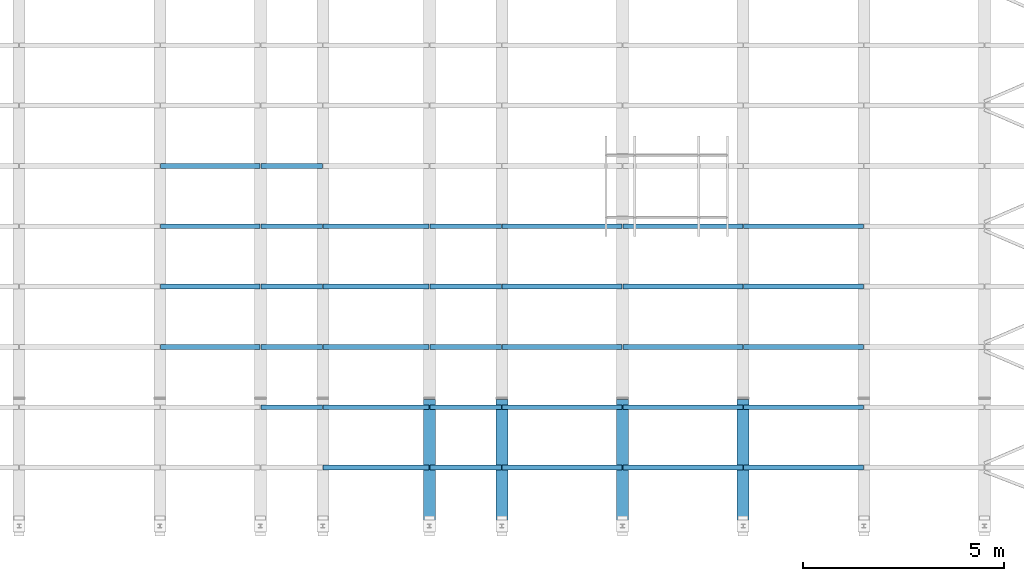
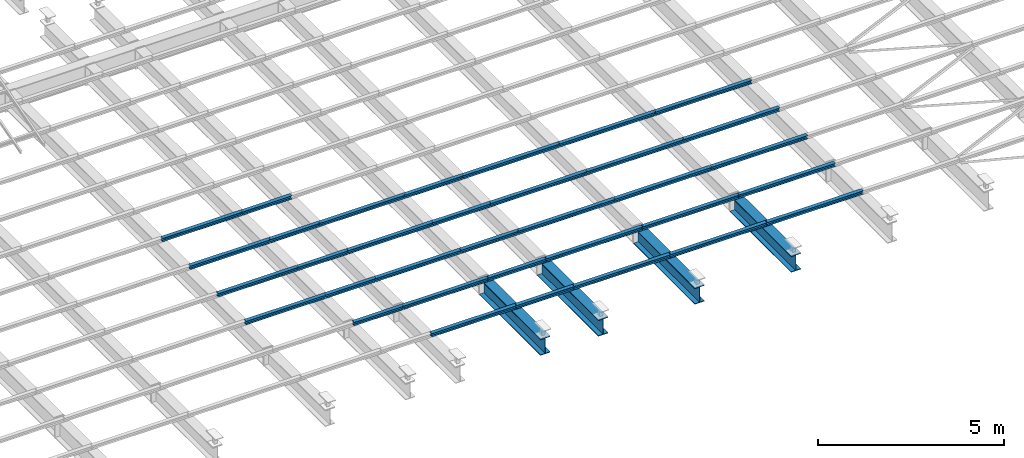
# One storey, part 38 of 139: 38 beams.
"""IFC2X3 building model written with IfcOpenShell, lengths in metres."""

from ifc_helpers import new_model, entity, si_unit, converted_unit, derived_unit, frame, origin, place, context, subcontext, project, spatial, polyline, outline, extrude, material, element, save


model = new_model("IFC2X3")

# Units and contexts
model_context = context("Model", 3, precision=1e-05, world=origin())
body_context = subcontext(model_context, "Body", "Model", "MODEL_VIEW")
ifc_project = project(units=[si_unit("LENGTHUNIT", "METRE"), si_unit("AREAUNIT", "SQUARE_METRE"), si_unit("VOLUMEUNIT", "CUBIC_METRE"), si_unit("MASSUNIT", "GRAM", prefix="KILO"), converted_unit("PLANEANGLEUNIT", "DEGREE", entity("IfcPlaneAngleMeasure", 0.0174532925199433), si_unit("PLANEANGLEUNIT", "RADIAN"), dimensions=[0, 0, 0, 0, 0, 0, 0]), derived_unit("THERMALTRANSMITTANCEUNIT", [(si_unit("POWERUNIT", "WATT"), 1), (si_unit("THERMODYNAMICTEMPERATUREUNIT", "KELVIN"), -1), (si_unit("LENGTHUNIT", "METRE"), -2)]), derived_unit("VOLUMETRICFLOWRATEUNIT", [(si_unit("LENGTHUNIT", "METRE"), 3), (converted_unit("TIMEUNIT", "hour", entity("IfcTimeMeasure", 3600.0), si_unit("TIMEUNIT", "SECOND"), dimensions=[0, 0, 1, 0, 0, 0, 0]), -1), (si_unit("LENGTHUNIT", "METRE"), -1)])], contexts=[model_context])

# Site, building, storey
site_placement = place(None, origin())
site = spatial("IfcSite", under=ifc_project, at=site_placement, Name="TWP_Speiseverteilzentrum SBW VZ II", CompositionType="ELEMENT")
building_placement = place(site_placement, origin())
building = spatial("IfcBuilding", under=site, at=building_placement, Name="Speiseverteilzentrum SBW VZ II", CompositionType="ELEMENT")
storey_placement = place(building_placement, frame((0.0, 0.0, 7.1307)))
storey = spatial("IfcBuildingStorey", under=building, at=storey_placement, Name="Wartung_FFB", CompositionType="ELEMENT", Elevation=7.1307)

# Beams
ifc_material_1 = material(Name="S235")
beam_1_placement = place(storey_placement, frame((34.0500000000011, 13.8380742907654, -0.46), z_axis=(0.0, 0.0, 1.0), x_axis=(-1.0, 0.0, 0.0)))
element("IfcBeam", 1, at=beam_1_placement, inside=storey, material=ifc_material_1, Name="Stahlträger", context=body_context, shape_type="SweptSolid", body=[
    extrude(outline(polyline([(-0.15, 0.27), (-0.15, 0.246), (-0.0062499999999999, 0.246), (-0.00624999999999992, -0.246), (-0.15, -0.246), (-0.15, -0.27), (0.15, -0.27), (0.15, -0.246), (0.00625000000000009, -0.246), (0.00625000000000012, 0.246), (0.15, 0.246), (0.15, 0.27), (-0.15, 0.27)])), frame((0.0, 0.0, 0.0), z_axis=(0.0, 1.0, 0.0), x_axis=(-1.0, 0.0, 0.0)), (0.0, 0.0, 1.0), 3.29792570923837),
])
ifc_material_2 = material(Name="S235")
beam_2_placement = place(storey_placement, frame((32.2500000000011, 13.8380742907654, -0.46), z_axis=(0.0, 0.0, 1.0), x_axis=(-1.0, 0.0, 0.0)))
element("IfcBeam", 2, at=beam_2_placement, inside=storey, material=ifc_material_2, Name="Stahlträger", context=body_context, shape_type="SweptSolid", body=[
    extrude(outline(polyline([(-0.15, 0.27), (-0.15, 0.246), (-0.0062499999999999, 0.246), (-0.00624999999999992, -0.246), (-0.15, -0.246), (-0.15, -0.27), (0.15, -0.27), (0.15, -0.246), (0.00625000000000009, -0.246), (0.00625000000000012, 0.246), (0.15, 0.246), (0.15, 0.27), (-0.15, 0.27)])), frame((0.0, 0.0, 0.0), z_axis=(0.0, 1.0, 0.0), x_axis=(-1.0, 0.0, 0.0)), (0.0, 0.0, 1.0), 3.29792570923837),
])
ifc_material_3 = material(Name="S235")
beam_3_placement = place(storey_placement, frame((37.0500000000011, 13.8380742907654, -0.46), z_axis=(0.0, 0.0, 1.0), x_axis=(-1.0, 0.0, 0.0)))
element("IfcBeam", 3, at=beam_3_placement, inside=storey, material=ifc_material_3, Name="Stahlträger", context=body_context, shape_type="SweptSolid", body=[
    extrude(outline(polyline([(-0.15, 0.27), (-0.15, 0.246), (-0.0062499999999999, 0.246), (-0.00624999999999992, -0.246), (-0.15, -0.246), (-0.15, -0.27), (0.15, -0.27), (0.15, -0.246), (0.00625000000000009, -0.246), (0.00625000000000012, 0.246), (0.15, 0.246), (0.15, 0.27), (-0.15, 0.27)])), frame((0.0, 0.0, 0.0), z_axis=(0.0, 1.0, 0.0), x_axis=(-1.0, 0.0, 0.0)), (0.0, 0.0, 1.0), 3.29792570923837),
])
ifc_material_4 = material(Name="S235")
beam_4_placement = place(storey_placement, frame((40.0500000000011, 13.8380742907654, -0.46), z_axis=(0.0, 0.0, 1.0), x_axis=(-1.0, 0.0, 0.0)))
element("IfcBeam", 4, at=beam_4_placement, inside=storey, material=ifc_material_4, Name="Stahlträger", context=body_context, shape_type="SweptSolid", body=[
    extrude(outline(polyline([(-0.15, 0.27), (-0.15, 0.246), (-0.0062499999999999, 0.246), (-0.00624999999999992, -0.246), (-0.15, -0.246), (-0.15, -0.27), (0.15, -0.27), (0.15, -0.246), (0.00625000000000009, -0.246), (0.00625000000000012, 0.246), (0.15, 0.246), (0.15, 0.27), (-0.15, 0.27)])), frame((0.0, 0.0, 0.0), z_axis=(0.0, 1.0, 0.0), x_axis=(-1.0, 0.0, 0.0)), (0.0, 0.0, 1.0), 3.29792570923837),
])
ifc_material_5 = material(Name="S235")
beam_5_placement = place(storey_placement, frame((34.0600000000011, 18.1450742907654, -0.133), z_axis=(0.0, 0.0, 1.0), x_axis=(0.0, -1.0, 0.0)))
element("IfcBeam", 5, at=beam_5_placement, inside=storey, material=ifc_material_5, Name="Nebenträger", context=body_context, shape_type="SweptSolid", body=[
    extrude(outline(polyline([(-0.06, 0.0570000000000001), (-0.06, 0.0490000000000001), (-0.00249999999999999, 0.0490000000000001), (-0.0025, -0.0489999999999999), (-0.06, -0.0489999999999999), (-0.06, -0.0569999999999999), (0.06, -0.0569999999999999), (0.06, -0.0489999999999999), (0.0025, -0.0489999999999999), (0.00250000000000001, 0.0490000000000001), (0.06, 0.0490000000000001), (0.06, 0.0570000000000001), (-0.06, 0.0570000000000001)])), frame((0.0, 0.0, 0.0), z_axis=(0.0, 1.0, 0.0), x_axis=(-1.0, 0.0, 0.0)), (0.0, 0.0, 1.0), 2.98),
])
ifc_material_6 = material(Name="S235")
beam_6_placement = place(storey_placement, frame((37.0600000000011, 18.1450742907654, -0.133), z_axis=(0.0, 0.0, 1.0), x_axis=(0.0, -1.0, 0.0)))
element("IfcBeam", 6, at=beam_6_placement, inside=storey, material=ifc_material_6, Name="Nebenträger", context=body_context, shape_type="SweptSolid", body=[
    extrude(outline(polyline([(-0.06, 0.0570000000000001), (-0.06, 0.0490000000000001), (-0.00249999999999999, 0.0490000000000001), (-0.0025, -0.0489999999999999), (-0.06, -0.0489999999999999), (-0.06, -0.0569999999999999), (0.06, -0.0569999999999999), (0.06, -0.0489999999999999), (0.0025, -0.0489999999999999), (0.00250000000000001, 0.0490000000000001), (0.06, 0.0490000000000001), (0.06, 0.0570000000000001), (-0.06, 0.0570000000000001)])), frame((0.0, 0.0, 0.0), z_axis=(0.0, 1.0, 0.0), x_axis=(-1.0, 0.0, 0.0)), (0.0, 0.0, 1.0), 2.98),
])
ifc_material_7 = material(Name="S235")
beam_7_placement = place(storey_placement, frame((40.0600000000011, 18.1450742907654, -0.133), z_axis=(0.0, 0.0, 1.0), x_axis=(0.0, -1.0, 0.0)))
element("IfcBeam", 7, at=beam_7_placement, inside=storey, material=ifc_material_7, Name="Nebenträger", context=body_context, shape_type="SweptSolid", body=[
    extrude(outline(polyline([(-0.06, 0.0570000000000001), (-0.06, 0.0490000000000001), (-0.00249999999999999, 0.0490000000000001), (-0.0025, -0.0489999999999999), (-0.06, -0.0489999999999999), (-0.06, -0.0569999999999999), (0.06, -0.0569999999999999), (0.06, -0.0489999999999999), (0.0025, -0.0489999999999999), (0.00250000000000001, 0.0490000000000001), (0.06, 0.0490000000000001), (0.06, 0.0570000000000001), (-0.06, 0.0570000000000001)])), frame((0.0, 0.0, 0.0), z_axis=(0.0, 1.0, 0.0), x_axis=(-1.0, 0.0, 0.0)), (0.0, 0.0, 1.0), 2.98),
])
ifc_material_8 = material(Name="S235")
beam_8_placement = place(storey_placement, frame((34.0600000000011, 16.6450742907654, -0.133), z_axis=(0.0, 0.0, 1.0), x_axis=(0.0, -1.0, 0.0)))
element("IfcBeam", 8, at=beam_8_placement, inside=storey, material=ifc_material_8, Name="Nebenträger", context=body_context, shape_type="SweptSolid", body=[
    extrude(outline(polyline([(-0.06, 0.0570000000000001), (-0.06, 0.0490000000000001), (-0.00249999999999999, 0.0490000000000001), (-0.0025, -0.0489999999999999), (-0.06, -0.0489999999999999), (-0.06, -0.0569999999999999), (0.06, -0.0569999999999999), (0.06, -0.0489999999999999), (0.0025, -0.0489999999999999), (0.00250000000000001, 0.0490000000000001), (0.06, 0.0490000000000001), (0.06, 0.0570000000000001), (-0.06, 0.0570000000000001)])), frame((0.0, 0.0, 0.0), z_axis=(0.0, 1.0, 0.0), x_axis=(-1.0, 0.0, 0.0)), (0.0, 0.0, 1.0), 2.98),
])
ifc_material_9 = material(Name="S235")
beam_9_placement = place(storey_placement, frame((37.0600000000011, 16.6450742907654, -0.133), z_axis=(0.0, 0.0, 1.0), x_axis=(0.0, -1.0, 0.0)))
element("IfcBeam", 9, at=beam_9_placement, inside=storey, material=ifc_material_9, Name="Nebenträger", context=body_context, shape_type="SweptSolid", body=[
    extrude(outline(polyline([(-0.06, 0.0570000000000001), (-0.06, 0.0490000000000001), (-0.00249999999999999, 0.0490000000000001), (-0.0025, -0.0489999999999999), (-0.06, -0.0489999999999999), (-0.06, -0.0569999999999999), (0.06, -0.0569999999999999), (0.06, -0.0489999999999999), (0.0025, -0.0489999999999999), (0.00250000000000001, 0.0490000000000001), (0.06, 0.0490000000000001), (0.06, 0.0570000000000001), (-0.06, 0.0570000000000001)])), frame((0.0, 0.0, 0.0), z_axis=(0.0, 1.0, 0.0), x_axis=(-1.0, 0.0, 0.0)), (0.0, 0.0, 1.0), 2.98),
])
ifc_material_10 = material(Name="S235")
beam_10_placement = place(storey_placement, frame((40.0600000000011, 16.6450742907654, -0.133), z_axis=(0.0, 0.0, 1.0), x_axis=(0.0, -1.0, 0.0)))
element("IfcBeam", 10, at=beam_10_placement, inside=storey, material=ifc_material_10, Name="Nebenträger", context=body_context, shape_type="SweptSolid", body=[
    extrude(outline(polyline([(-0.06, 0.0570000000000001), (-0.06, 0.0490000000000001), (-0.00249999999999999, 0.0490000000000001), (-0.0025, -0.0489999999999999), (-0.06, -0.0489999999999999), (-0.06, -0.0569999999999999), (0.06, -0.0569999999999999), (0.06, -0.0489999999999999), (0.0025, -0.0489999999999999), (0.00250000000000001, 0.0490000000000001), (0.06, 0.0490000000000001), (0.06, 0.0570000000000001), (-0.06, 0.0570000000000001)])), frame((0.0, 0.0, 0.0), z_axis=(0.0, 1.0, 0.0), x_axis=(-1.0, 0.0, 0.0)), (0.0, 0.0, 1.0), 2.98),
])
ifc_material_11 = material(Name="S235")
beam_11_placement = place(storey_placement, frame((34.0600000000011, 15.1450742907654, -0.133), z_axis=(0.0, 0.0, 1.0), x_axis=(0.0, -1.0, 0.0)))
element("IfcBeam", 11, at=beam_11_placement, inside=storey, material=ifc_material_11, Name="Nebenträger", context=body_context, shape_type="SweptSolid", body=[
    extrude(outline(polyline([(-0.06, 0.0570000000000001), (-0.06, 0.0490000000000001), (-0.00249999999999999, 0.0490000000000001), (-0.0025, -0.0489999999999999), (-0.06, -0.0489999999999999), (-0.06, -0.0569999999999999), (0.06, -0.0569999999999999), (0.06, -0.0489999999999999), (0.0025, -0.0489999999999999), (0.00250000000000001, 0.0490000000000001), (0.06, 0.0490000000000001), (0.06, 0.0570000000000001), (-0.06, 0.0570000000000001)])), frame((0.0, 0.0, 0.0), z_axis=(0.0, 1.0, 0.0), x_axis=(-1.0, 0.0, 0.0)), (0.0, 0.0, 1.0), 2.98),
])
ifc_material_12 = material(Name="S235")
beam_12_placement = place(storey_placement, frame((37.0600000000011, 15.1450742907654, -0.133), z_axis=(0.0, 0.0, 1.0), x_axis=(0.0, -1.0, 0.0)))
element("IfcBeam", 12, at=beam_12_placement, inside=storey, material=ifc_material_12, Name="Nebenträger", context=body_context, shape_type="SweptSolid", body=[
    extrude(outline(polyline([(-0.06, 0.0570000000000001), (-0.06, 0.0490000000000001), (-0.00249999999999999, 0.0490000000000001), (-0.0025, -0.0489999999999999), (-0.06, -0.0489999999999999), (-0.06, -0.0569999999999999), (0.06, -0.0569999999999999), (0.06, -0.0489999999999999), (0.0025, -0.0489999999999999), (0.00250000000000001, 0.0490000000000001), (0.06, 0.0490000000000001), (0.06, 0.0570000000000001), (-0.06, 0.0570000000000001)])), frame((0.0, 0.0, 0.0), z_axis=(0.0, 1.0, 0.0), x_axis=(-1.0, 0.0, 0.0)), (0.0, 0.0, 1.0), 2.98),
])
ifc_material_13 = material(Name="S235")
beam_13_placement = place(storey_placement, frame((40.0600000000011, 15.1450742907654, -0.133), z_axis=(0.0, 0.0, 1.0), x_axis=(0.0, -1.0, 0.0)))
element("IfcBeam", 13, at=beam_13_placement, inside=storey, material=ifc_material_13, Name="Nebenträger", context=body_context, shape_type="SweptSolid", body=[
    extrude(outline(polyline([(-0.06, 0.0570000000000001), (-0.06, 0.0490000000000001), (-0.00249999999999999, 0.0490000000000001), (-0.0025, -0.0489999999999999), (-0.06, -0.0489999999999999), (-0.06, -0.0569999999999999), (0.06, -0.0569999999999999), (0.06, -0.0489999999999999), (0.0025, -0.0489999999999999), (0.00250000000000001, 0.0490000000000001), (0.06, 0.0490000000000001), (0.06, 0.0570000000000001), (-0.06, 0.0570000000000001)])), frame((0.0, 0.0, 0.0), z_axis=(0.0, 1.0, 0.0), x_axis=(-1.0, 0.0, 0.0)), (0.0, 0.0, 1.0), 2.98),
])
ifc_material_14 = material(Name="S235")
beam_14_placement = place(storey_placement, frame((34.0600000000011, 13.6450742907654, -0.133), z_axis=(0.0, 0.0, 1.0), x_axis=(0.0, -1.0, 0.0)))
element("IfcBeam", 14, at=beam_14_placement, inside=storey, material=ifc_material_14, Name="Nebenträger", context=body_context, shape_type="SweptSolid", body=[
    extrude(outline(polyline([(-0.06, 0.0570000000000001), (-0.06, 0.0490000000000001), (-0.00249999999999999, 0.0490000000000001), (-0.0025, -0.0489999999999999), (-0.06, -0.0489999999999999), (-0.06, -0.0569999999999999), (0.06, -0.0569999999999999), (0.06, -0.0489999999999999), (0.0025, -0.0489999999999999), (0.00250000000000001, 0.0490000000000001), (0.06, 0.0490000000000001), (0.06, 0.0570000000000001), (-0.06, 0.0570000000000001)])), frame((0.0, 0.0, 0.0), z_axis=(0.0, 1.0, 0.0), x_axis=(-1.0, 0.0, 0.0)), (0.0, 0.0, 1.0), 2.98),
])
ifc_material_15 = material(Name="S235")
beam_15_placement = place(storey_placement, frame((37.0600000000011, 13.6450742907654, -0.133), z_axis=(0.0, 0.0, 1.0), x_axis=(0.0, -1.0, 0.0)))
element("IfcBeam", 15, at=beam_15_placement, inside=storey, material=ifc_material_15, Name="Nebenträger", context=body_context, shape_type="SweptSolid", body=[
    extrude(outline(polyline([(-0.06, 0.0570000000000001), (-0.06, 0.0490000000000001), (-0.00249999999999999, 0.0490000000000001), (-0.0025, -0.0489999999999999), (-0.06, -0.0489999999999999), (-0.06, -0.0569999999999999), (0.06, -0.0569999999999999), (0.06, -0.0489999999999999), (0.0025, -0.0489999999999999), (0.00250000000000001, 0.0490000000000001), (0.06, 0.0490000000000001), (0.06, 0.0570000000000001), (-0.06, 0.0570000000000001)])), frame((0.0, 0.0, 0.0), z_axis=(0.0, 1.0, 0.0), x_axis=(-1.0, 0.0, 0.0)), (0.0, 0.0, 1.0), 2.98),
])
ifc_material_16 = material(Name="S235")
beam_16_placement = place(storey_placement, frame((40.0600000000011, 13.6450742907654, -0.133), z_axis=(0.0, 0.0, 1.0), x_axis=(0.0, -1.0, 0.0)))
element("IfcBeam", 16, at=beam_16_placement, inside=storey, material=ifc_material_16, Name="Nebenträger", context=body_context, shape_type="SweptSolid", body=[
    extrude(outline(polyline([(-0.06, 0.0570000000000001), (-0.06, 0.0490000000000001), (-0.00249999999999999, 0.0490000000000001), (-0.0025, -0.0489999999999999), (-0.06, -0.0489999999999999), (-0.06, -0.0569999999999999), (0.06, -0.0569999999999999), (0.06, -0.0489999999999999), (0.0025, -0.0489999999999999), (0.00250000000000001, 0.0490000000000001), (0.06, 0.0490000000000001), (0.06, 0.0570000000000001), (-0.06, 0.0570000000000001)])), frame((0.0, 0.0, 0.0), z_axis=(0.0, 1.0, 0.0), x_axis=(-1.0, 0.0, 0.0)), (0.0, 0.0, 1.0), 2.98),
])
ifc_material_17 = material(Name="S235")
beam_17_placement = place(storey_placement, frame((34.0600000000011, 12.1450742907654, -0.133), z_axis=(0.0, 0.0, 1.0), x_axis=(0.0, -1.0, 0.0)))
element("IfcBeam", 17, at=beam_17_placement, inside=storey, material=ifc_material_17, Name="Nebenträger", context=body_context, shape_type="SweptSolid", body=[
    extrude(outline(polyline([(-0.06, 0.0570000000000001), (-0.06, 0.0490000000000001), (-0.00249999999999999, 0.0490000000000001), (-0.0025, -0.0489999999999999), (-0.06, -0.0489999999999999), (-0.06, -0.0569999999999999), (0.06, -0.0569999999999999), (0.06, -0.0489999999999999), (0.0025, -0.0489999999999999), (0.00250000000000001, 0.0490000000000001), (0.06, 0.0490000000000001), (0.06, 0.0570000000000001), (-0.06, 0.0570000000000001)])), frame((0.0, 0.0, 0.0), z_axis=(0.0, 1.0, 0.0), x_axis=(-1.0, 0.0, 0.0)), (0.0, 0.0, 1.0), 2.98),
])
ifc_material_18 = material(Name="S235")
beam_18_placement = place(storey_placement, frame((37.0600000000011, 12.1450742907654, -0.133), z_axis=(0.0, 0.0, 1.0), x_axis=(0.0, -1.0, 0.0)))
element("IfcBeam", 18, at=beam_18_placement, inside=storey, material=ifc_material_18, Name="Nebenträger", context=body_context, shape_type="SweptSolid", body=[
    extrude(outline(polyline([(-0.06, 0.0570000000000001), (-0.06, 0.0490000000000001), (-0.00249999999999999, 0.0490000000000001), (-0.0025, -0.0489999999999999), (-0.06, -0.0489999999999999), (-0.06, -0.0569999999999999), (0.06, -0.0569999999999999), (0.06, -0.0489999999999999), (0.0025, -0.0489999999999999), (0.00250000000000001, 0.0490000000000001), (0.06, 0.0490000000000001), (0.06, 0.0570000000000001), (-0.06, 0.0570000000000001)])), frame((0.0, 0.0, 0.0), z_axis=(0.0, 1.0, 0.0), x_axis=(-1.0, 0.0, 0.0)), (0.0, 0.0, 1.0), 2.98),
])
ifc_material_19 = material(Name="S235")
beam_19_placement = place(storey_placement, frame((40.0600000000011, 12.1450742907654, -0.133), z_axis=(0.0, 0.0, 1.0), x_axis=(0.0, -1.0, 0.0)))
element("IfcBeam", 19, at=beam_19_placement, inside=storey, material=ifc_material_19, Name="Nebenträger", context=body_context, shape_type="SweptSolid", body=[
    extrude(outline(polyline([(-0.06, 0.0570000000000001), (-0.06, 0.0490000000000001), (-0.00249999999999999, 0.0490000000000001), (-0.0025, -0.0489999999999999), (-0.06, -0.0489999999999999), (-0.06, -0.0569999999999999), (0.06, -0.0569999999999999), (0.06, -0.0489999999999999), (0.0025, -0.0489999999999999), (0.00250000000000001, 0.0490000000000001), (0.06, 0.0490000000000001), (0.06, 0.0570000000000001), (-0.06, 0.0570000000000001)])), frame((0.0, 0.0, 0.0), z_axis=(0.0, 1.0, 0.0), x_axis=(-1.0, 0.0, 0.0)), (0.0, 0.0, 1.0), 2.98),
])
ifc_material_20 = material(Name="S235")
beam_20_placement = place(storey_placement, frame((25.5662500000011, 19.6450742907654, -0.133), z_axis=(0.0, 0.0, 1.0), x_axis=(0.0, -1.0, 0.0)))
element("IfcBeam", 20, at=beam_20_placement, inside=storey, material=ifc_material_20, Name="Nebenträger", context=body_context, shape_type="SweptSolid", body=[
    extrude(outline(polyline([(-0.06, 0.0570000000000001), (-0.06, 0.0490000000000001), (-0.00249999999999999, 0.0490000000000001), (-0.0025, -0.0489999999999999), (-0.06, -0.0489999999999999), (-0.06, -0.0569999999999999), (0.06, -0.0569999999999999), (0.06, -0.0489999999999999), (0.0025, -0.0489999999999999), (0.00250000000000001, 0.0490000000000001), (0.06, 0.0490000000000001), (0.06, 0.0570000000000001), (-0.06, 0.0570000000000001)])), frame((0.0, 0.0, 0.0), z_axis=(0.0, 1.0, 0.0), x_axis=(-1.0, 0.0, 0.0)), (0.0, 0.0, 1.0), 2.47375),
])
ifc_material_21 = material(Name="S235")
beam_21_placement = place(storey_placement, frame((25.5662500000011, 18.1450742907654, -0.133), z_axis=(0.0, 0.0, 1.0), x_axis=(0.0, -1.0, 0.0)))
element("IfcBeam", 21, at=beam_21_placement, inside=storey, material=ifc_material_21, Name="Nebenträger", context=body_context, shape_type="SweptSolid", body=[
    extrude(outline(polyline([(-0.06, 0.0570000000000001), (-0.06, 0.0490000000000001), (-0.00249999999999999, 0.0490000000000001), (-0.0025, -0.0489999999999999), (-0.06, -0.0489999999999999), (-0.06, -0.0569999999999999), (0.06, -0.0569999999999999), (0.06, -0.0489999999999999), (0.0025, -0.0489999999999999), (0.00250000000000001, 0.0490000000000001), (0.06, 0.0490000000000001), (0.06, 0.0570000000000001), (-0.06, 0.0570000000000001)])), frame((0.0, 0.0, 0.0), z_axis=(0.0, 1.0, 0.0), x_axis=(-1.0, 0.0, 0.0)), (0.0, 0.0, 1.0), 2.47375),
])
ifc_material_22 = material(Name="S235")
beam_22_placement = place(storey_placement, frame((25.5662500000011, 16.6450742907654, -0.133), z_axis=(0.0, 0.0, 1.0), x_axis=(0.0, -1.0, 0.0)))
element("IfcBeam", 22, at=beam_22_placement, inside=storey, material=ifc_material_22, Name="Nebenträger", context=body_context, shape_type="SweptSolid", body=[
    extrude(outline(polyline([(-0.06, 0.0570000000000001), (-0.06, 0.0490000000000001), (-0.00249999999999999, 0.0490000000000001), (-0.0025, -0.0489999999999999), (-0.06, -0.0489999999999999), (-0.06, -0.0569999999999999), (0.06, -0.0569999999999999), (0.06, -0.0489999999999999), (0.0025, -0.0489999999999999), (0.00250000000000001, 0.0490000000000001), (0.06, 0.0490000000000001), (0.06, 0.0570000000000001), (-0.06, 0.0570000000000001)])), frame((0.0, 0.0, 0.0), z_axis=(0.0, 1.0, 0.0), x_axis=(-1.0, 0.0, 0.0)), (0.0, 0.0, 1.0), 2.47375),
])
ifc_material_23 = material(Name="S235")
beam_23_placement = place(storey_placement, frame((25.5662500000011, 15.1450742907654, -0.133), z_axis=(0.0, 0.0, 1.0), x_axis=(0.0, -1.0, 0.0)))
element("IfcBeam", 23, at=beam_23_placement, inside=storey, material=ifc_material_23, Name="Nebenträger", context=body_context, shape_type="SweptSolid", body=[
    extrude(outline(polyline([(-0.06, 0.0570000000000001), (-0.06, 0.0490000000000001), (-0.00249999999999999, 0.0490000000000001), (-0.0025, -0.0489999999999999), (-0.06, -0.0489999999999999), (-0.06, -0.0569999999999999), (0.06, -0.0569999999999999), (0.06, -0.0489999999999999), (0.0025, -0.0489999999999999), (0.00250000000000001, 0.0490000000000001), (0.06, 0.0490000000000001), (0.06, 0.0570000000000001), (-0.06, 0.0570000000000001)])), frame((0.0, 0.0, 0.0), z_axis=(0.0, 1.0, 0.0), x_axis=(-1.0, 0.0, 0.0)), (0.0, 0.0, 1.0), 2.47375),
])
ifc_material_24 = material(Name="S235")
beam_24_placement = place(storey_placement, frame((28.0600000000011, 19.6450742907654, -0.133), z_axis=(0.0, 0.0, 1.0), x_axis=(0.0, -1.0, 0.0)))
element("IfcBeam", 24, at=beam_24_placement, inside=storey, material=ifc_material_24, Name="Nebenträger", context=body_context, shape_type="SweptSolid", body=[
    extrude(outline(polyline([(-0.06, 0.0570000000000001), (-0.06, 0.0490000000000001), (-0.00249999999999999, 0.0490000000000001), (-0.0025, -0.0489999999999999), (-0.06, -0.0489999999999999), (-0.06, -0.0569999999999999), (0.06, -0.0569999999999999), (0.06, -0.0489999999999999), (0.0025, -0.0489999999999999), (0.00250000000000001, 0.0490000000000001), (0.06, 0.0490000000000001), (0.06, 0.0570000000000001), (-0.06, 0.0570000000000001)])), frame((0.0, 0.0, 0.0), z_axis=(0.0, 1.0, 0.0), x_axis=(-1.0, 0.0, 0.0)), (0.0, 0.0, 1.0), 1.52999999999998),
])
ifc_material_25 = material(Name="S235")
beam_25_placement = place(storey_placement, frame((28.0600000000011, 18.1450742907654, -0.133), z_axis=(0.0, 0.0, 1.0), x_axis=(0.0, -1.0, 0.0)))
element("IfcBeam", 25, at=beam_25_placement, inside=storey, material=ifc_material_25, Name="Nebenträger", context=body_context, shape_type="SweptSolid", body=[
    extrude(outline(polyline([(-0.06, 0.0570000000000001), (-0.06, 0.0490000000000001), (-0.00249999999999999, 0.0490000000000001), (-0.0025, -0.0489999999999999), (-0.06, -0.0489999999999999), (-0.06, -0.0569999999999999), (0.06, -0.0569999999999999), (0.06, -0.0489999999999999), (0.0025, -0.0489999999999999), (0.00250000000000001, 0.0490000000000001), (0.06, 0.0490000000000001), (0.06, 0.0570000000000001), (-0.06, 0.0570000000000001)])), frame((0.0, 0.0, 0.0), z_axis=(0.0, 1.0, 0.0), x_axis=(-1.0, 0.0, 0.0)), (0.0, 0.0, 1.0), 1.52999999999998),
])
ifc_material_26 = material(Name="S235")
beam_26_placement = place(storey_placement, frame((28.0600000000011, 16.6450742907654, -0.133), z_axis=(0.0, 0.0, 1.0), x_axis=(0.0, -1.0, 0.0)))
element("IfcBeam", 26, at=beam_26_placement, inside=storey, material=ifc_material_26, Name="Nebenträger", context=body_context, shape_type="SweptSolid", body=[
    extrude(outline(polyline([(-0.06, 0.0570000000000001), (-0.06, 0.0490000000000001), (-0.00249999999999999, 0.0490000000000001), (-0.0025, -0.0489999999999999), (-0.06, -0.0489999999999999), (-0.06, -0.0569999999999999), (0.06, -0.0569999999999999), (0.06, -0.0489999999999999), (0.0025, -0.0489999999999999), (0.00250000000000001, 0.0490000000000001), (0.06, 0.0490000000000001), (0.06, 0.0570000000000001), (-0.06, 0.0570000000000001)])), frame((0.0, 0.0, 0.0), z_axis=(0.0, 1.0, 0.0), x_axis=(-1.0, 0.0, 0.0)), (0.0, 0.0, 1.0), 1.52999999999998),
])
ifc_material_27 = material(Name="S235")
beam_27_placement = place(storey_placement, frame((28.0600000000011, 15.1450742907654, -0.133), z_axis=(0.0, 0.0, 1.0), x_axis=(0.0, -1.0, 0.0)))
element("IfcBeam", 27, at=beam_27_placement, inside=storey, material=ifc_material_27, Name="Nebenträger", context=body_context, shape_type="SweptSolid", body=[
    extrude(outline(polyline([(-0.06, 0.0570000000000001), (-0.06, 0.0490000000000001), (-0.00249999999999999, 0.0490000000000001), (-0.0025, -0.0489999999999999), (-0.06, -0.0489999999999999), (-0.06, -0.0569999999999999), (0.06, -0.0569999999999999), (0.06, -0.0489999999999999), (0.0025, -0.0489999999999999), (0.00250000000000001, 0.0490000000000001), (0.06, 0.0490000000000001), (0.06, 0.0570000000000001), (-0.06, 0.0570000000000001)])), frame((0.0, 0.0, 0.0), z_axis=(0.0, 1.0, 0.0), x_axis=(-1.0, 0.0, 0.0)), (0.0, 0.0, 1.0), 1.52999999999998),
])
ifc_material_28 = material(Name="S235")
beam_28_placement = place(storey_placement, frame((28.0600000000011, 13.6450742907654, -0.133), z_axis=(0.0, 0.0, 1.0), x_axis=(0.0, -1.0, 0.0)))
element("IfcBeam", 28, at=beam_28_placement, inside=storey, material=ifc_material_28, Name="Nebenträger", context=body_context, shape_type="SweptSolid", body=[
    extrude(outline(polyline([(-0.06, 0.0570000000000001), (-0.06, 0.0490000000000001), (-0.00249999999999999, 0.0490000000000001), (-0.0025, -0.0489999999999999), (-0.06, -0.0489999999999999), (-0.06, -0.0569999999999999), (0.06, -0.0569999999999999), (0.06, -0.0489999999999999), (0.0025, -0.0489999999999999), (0.00250000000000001, 0.0490000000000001), (0.06, 0.0490000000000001), (0.06, 0.0570000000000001), (-0.06, 0.0570000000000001)])), frame((0.0, 0.0, 0.0), z_axis=(0.0, 1.0, 0.0), x_axis=(-1.0, 0.0, 0.0)), (0.0, 0.0, 1.0), 1.52999999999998),
])
ifc_material_29 = material(Name="S235")
beam_29_placement = place(storey_placement, frame((29.6100000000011, 18.1450742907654, -0.133), z_axis=(0.0, 0.0, 1.0), x_axis=(0.0, -1.0, 0.0)))
element("IfcBeam", 29, at=beam_29_placement, inside=storey, material=ifc_material_29, Name="Nebenträger", context=body_context, shape_type="SweptSolid", body=[
    extrude(outline(polyline([(-0.06, 0.0570000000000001), (-0.06, 0.0490000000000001), (-0.00249999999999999, 0.0490000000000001), (-0.0025, -0.0489999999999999), (-0.06, -0.0489999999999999), (-0.06, -0.0569999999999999), (0.06, -0.0569999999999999), (0.06, -0.0489999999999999), (0.0025, -0.0489999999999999), (0.00250000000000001, 0.0490000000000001), (0.06, 0.0490000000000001), (0.06, 0.0570000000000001), (-0.06, 0.0570000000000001)])), frame((0.0, 0.0, 0.0), z_axis=(0.0, 1.0, 0.0), x_axis=(-1.0, 0.0, 0.0)), (0.0, 0.0, 1.0), 2.63000000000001),
])
ifc_material_30 = material(Name="S235")
beam_30_placement = place(storey_placement, frame((29.6100000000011, 16.6450742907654, -0.133), z_axis=(0.0, 0.0, 1.0), x_axis=(0.0, -1.0, 0.0)))
element("IfcBeam", 30, at=beam_30_placement, inside=storey, material=ifc_material_30, Name="Nebenträger", context=body_context, shape_type="SweptSolid", body=[
    extrude(outline(polyline([(-0.06, 0.0570000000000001), (-0.06, 0.0490000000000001), (-0.00249999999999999, 0.0490000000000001), (-0.0025, -0.0489999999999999), (-0.06, -0.0489999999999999), (-0.06, -0.0569999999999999), (0.06, -0.0569999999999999), (0.06, -0.0489999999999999), (0.0025, -0.0489999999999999), (0.00250000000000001, 0.0490000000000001), (0.06, 0.0490000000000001), (0.06, 0.0570000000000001), (-0.06, 0.0570000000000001)])), frame((0.0, 0.0, 0.0), z_axis=(0.0, 1.0, 0.0), x_axis=(-1.0, 0.0, 0.0)), (0.0, 0.0, 1.0), 2.63000000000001),
])
ifc_material_31 = material(Name="S235")
beam_31_placement = place(storey_placement, frame((29.6100000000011, 15.1450742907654, -0.133), z_axis=(0.0, 0.0, 1.0), x_axis=(0.0, -1.0, 0.0)))
element("IfcBeam", 31, at=beam_31_placement, inside=storey, material=ifc_material_31, Name="Nebenträger", context=body_context, shape_type="SweptSolid", body=[
    extrude(outline(polyline([(-0.06, 0.0570000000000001), (-0.06, 0.0490000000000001), (-0.00249999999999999, 0.0490000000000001), (-0.0025, -0.0489999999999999), (-0.06, -0.0489999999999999), (-0.06, -0.0569999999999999), (0.06, -0.0569999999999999), (0.06, -0.0489999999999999), (0.0025, -0.0489999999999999), (0.00250000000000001, 0.0490000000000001), (0.06, 0.0490000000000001), (0.06, 0.0570000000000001), (-0.06, 0.0570000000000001)])), frame((0.0, 0.0, 0.0), z_axis=(0.0, 1.0, 0.0), x_axis=(-1.0, 0.0, 0.0)), (0.0, 0.0, 1.0), 2.63000000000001),
])
ifc_material_32 = material(Name="S235")
beam_32_placement = place(storey_placement, frame((29.6100000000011, 13.6450742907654, -0.133), z_axis=(0.0, 0.0, 1.0), x_axis=(0.0, -1.0, 0.0)))
element("IfcBeam", 32, at=beam_32_placement, inside=storey, material=ifc_material_32, Name="Nebenträger", context=body_context, shape_type="SweptSolid", body=[
    extrude(outline(polyline([(-0.06, 0.0570000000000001), (-0.06, 0.0490000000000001), (-0.00249999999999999, 0.0490000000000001), (-0.0025, -0.0489999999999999), (-0.06, -0.0489999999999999), (-0.06, -0.0569999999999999), (0.06, -0.0569999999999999), (0.06, -0.0489999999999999), (0.0025, -0.0489999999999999), (0.00250000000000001, 0.0490000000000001), (0.06, 0.0490000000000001), (0.06, 0.0570000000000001), (-0.06, 0.0570000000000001)])), frame((0.0, 0.0, 0.0), z_axis=(0.0, 1.0, 0.0), x_axis=(-1.0, 0.0, 0.0)), (0.0, 0.0, 1.0), 2.63000000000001),
])
ifc_material_33 = material(Name="S235")
beam_33_placement = place(storey_placement, frame((29.6100000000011, 12.1450742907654, -0.133), z_axis=(0.0, 0.0, 1.0), x_axis=(0.0, -1.0, 0.0)))
element("IfcBeam", 33, at=beam_33_placement, inside=storey, material=ifc_material_33, Name="Nebenträger", context=body_context, shape_type="SweptSolid", body=[
    extrude(outline(polyline([(-0.06, 0.0570000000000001), (-0.06, 0.0490000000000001), (-0.00249999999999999, 0.0490000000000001), (-0.0025, -0.0489999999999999), (-0.06, -0.0489999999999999), (-0.06, -0.0569999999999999), (0.06, -0.0569999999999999), (0.06, -0.0489999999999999), (0.0025, -0.0489999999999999), (0.00250000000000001, 0.0490000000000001), (0.06, 0.0490000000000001), (0.06, 0.0570000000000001), (-0.06, 0.0570000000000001)])), frame((0.0, 0.0, 0.0), z_axis=(0.0, 1.0, 0.0), x_axis=(-1.0, 0.0, 0.0)), (0.0, 0.0, 1.0), 2.63000000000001),
])
ifc_material_34 = material(Name="S235")
beam_34_placement = place(storey_placement, frame((32.2600000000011, 18.1450742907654, -0.133), z_axis=(0.0, 0.0, 1.0), x_axis=(0.0, -1.0, 0.0)))
element("IfcBeam", 34, at=beam_34_placement, inside=storey, material=ifc_material_34, Name="Nebenträger", context=body_context, shape_type="SweptSolid", body=[
    extrude(outline(polyline([(-0.06, 0.0570000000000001), (-0.06, 0.0490000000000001), (-0.00249999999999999, 0.0490000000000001), (-0.0025, -0.0489999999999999), (-0.06, -0.0489999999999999), (-0.06, -0.0569999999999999), (0.06, -0.0569999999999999), (0.06, -0.0489999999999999), (0.0025, -0.0489999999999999), (0.00250000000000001, 0.0490000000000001), (0.06, 0.0490000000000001), (0.06, 0.0570000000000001), (-0.06, 0.0570000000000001)])), frame((0.0, 0.0, 0.0), z_axis=(0.0, 1.0, 0.0), x_axis=(-1.0, 0.0, 0.0)), (0.0, 0.0, 1.0), 1.78000000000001),
])
ifc_material_35 = material(Name="S235")
beam_35_placement = place(storey_placement, frame((32.2600000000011, 16.6450742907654, -0.133), z_axis=(0.0, 0.0, 1.0), x_axis=(0.0, -1.0, 0.0)))
element("IfcBeam", 35, at=beam_35_placement, inside=storey, material=ifc_material_35, Name="Nebenträger", context=body_context, shape_type="SweptSolid", body=[
    extrude(outline(polyline([(-0.06, 0.0570000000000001), (-0.06, 0.0490000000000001), (-0.00249999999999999, 0.0490000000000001), (-0.0025, -0.0489999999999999), (-0.06, -0.0489999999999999), (-0.06, -0.0569999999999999), (0.06, -0.0569999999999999), (0.06, -0.0489999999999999), (0.0025, -0.0489999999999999), (0.00250000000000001, 0.0490000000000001), (0.06, 0.0490000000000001), (0.06, 0.0570000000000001), (-0.06, 0.0570000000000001)])), frame((0.0, 0.0, 0.0), z_axis=(0.0, 1.0, 0.0), x_axis=(-1.0, 0.0, 0.0)), (0.0, 0.0, 1.0), 1.78000000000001),
])
ifc_material_36 = material(Name="S235")
beam_36_placement = place(storey_placement, frame((32.2600000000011, 15.1450742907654, -0.133), z_axis=(0.0, 0.0, 1.0), x_axis=(0.0, -1.0, 0.0)))
element("IfcBeam", 36, at=beam_36_placement, inside=storey, material=ifc_material_36, Name="Nebenträger", context=body_context, shape_type="SweptSolid", body=[
    extrude(outline(polyline([(-0.06, 0.0570000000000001), (-0.06, 0.0490000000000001), (-0.00249999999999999, 0.0490000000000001), (-0.0025, -0.0489999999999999), (-0.06, -0.0489999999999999), (-0.06, -0.0569999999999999), (0.06, -0.0569999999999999), (0.06, -0.0489999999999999), (0.0025, -0.0489999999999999), (0.00250000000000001, 0.0490000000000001), (0.06, 0.0490000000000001), (0.06, 0.0570000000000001), (-0.06, 0.0570000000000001)])), frame((0.0, 0.0, 0.0), z_axis=(0.0, 1.0, 0.0), x_axis=(-1.0, 0.0, 0.0)), (0.0, 0.0, 1.0), 1.78000000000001),
])
ifc_material_37 = material(Name="S235")
beam_37_placement = place(storey_placement, frame((32.2600000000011, 13.6450742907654, -0.133), z_axis=(0.0, 0.0, 1.0), x_axis=(0.0, -1.0, 0.0)))
element("IfcBeam", 37, at=beam_37_placement, inside=storey, material=ifc_material_37, Name="Nebenträger", context=body_context, shape_type="SweptSolid", body=[
    extrude(outline(polyline([(-0.06, 0.0570000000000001), (-0.06, 0.0490000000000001), (-0.00249999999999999, 0.0490000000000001), (-0.0025, -0.0489999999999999), (-0.06, -0.0489999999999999), (-0.06, -0.0569999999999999), (0.06, -0.0569999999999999), (0.06, -0.0489999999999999), (0.0025, -0.0489999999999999), (0.00250000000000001, 0.0490000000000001), (0.06, 0.0490000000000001), (0.06, 0.0570000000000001), (-0.06, 0.0570000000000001)])), frame((0.0, 0.0, 0.0), z_axis=(0.0, 1.0, 0.0), x_axis=(-1.0, 0.0, 0.0)), (0.0, 0.0, 1.0), 1.78000000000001),
])
ifc_material_38 = material(Name="S235")
beam_38_placement = place(storey_placement, frame((32.2600000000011, 12.1450742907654, -0.133), z_axis=(0.0, 0.0, 1.0), x_axis=(0.0, -1.0, 0.0)))
element("IfcBeam", 38, at=beam_38_placement, inside=storey, material=ifc_material_38, Name="Nebenträger", context=body_context, shape_type="SweptSolid", body=[
    extrude(outline(polyline([(-0.06, 0.0570000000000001), (-0.06, 0.0490000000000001), (-0.00249999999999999, 0.0490000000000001), (-0.0025, -0.0489999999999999), (-0.06, -0.0489999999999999), (-0.06, -0.0569999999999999), (0.06, -0.0569999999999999), (0.06, -0.0489999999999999), (0.0025, -0.0489999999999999), (0.00250000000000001, 0.0490000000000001), (0.06, 0.0490000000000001), (0.06, 0.0570000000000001), (-0.06, 0.0570000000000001)])), frame((0.0, 0.0, 0.0), z_axis=(0.0, 1.0, 0.0), x_axis=(-1.0, 0.0, 0.0)), (0.0, 0.0, 1.0), 1.78000000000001),
])

save(model, "model.ifc")
